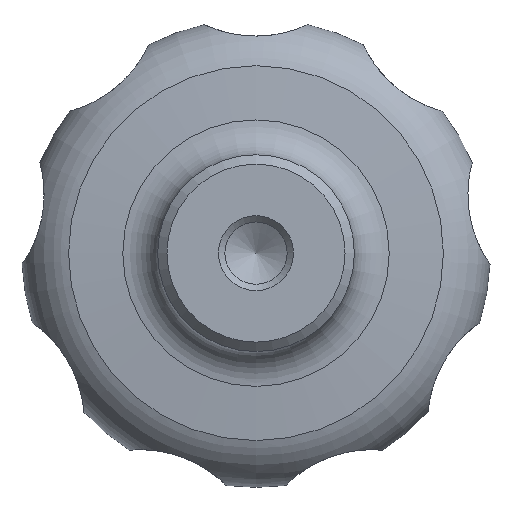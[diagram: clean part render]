
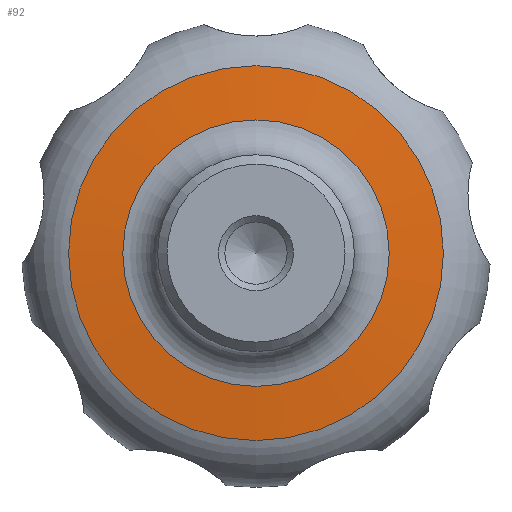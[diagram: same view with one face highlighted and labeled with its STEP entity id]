
A CAD part, front view. The second image highlights one B-rep face of the part: STEP entity #92.
In plain terms, the highlighted spherical face has radius 200.5 mm.
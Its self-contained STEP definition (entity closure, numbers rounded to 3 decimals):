
#92 = ADVANCED_FACE( '', ( #147, #148 ), #149, .T. );
#147 = FACE_OUTER_BOUND( '', #205, .T. );
#148 = FACE_OUTER_BOUND( '', #206, .T. );
#149 = SPHERICAL_SURFACE( '', #207, 200.5 );
#205 = EDGE_LOOP( '', ( #297 ) );
#206 = EDGE_LOOP( '', ( #298 ) );
#207 = AXIS2_PLACEMENT_3D( '', #299, #300, #301 );
#297 = ORIENTED_EDGE( '', *, *, #320, .T. );
#298 = ORIENTED_EDGE( '', *, *, #327, .F. );
#299 = CARTESIAN_POINT( '', ( 0., 217.5, 0. ) );
#300 = DIRECTION( '', ( 0., -1., 0. ) );
#301 = DIRECTION( '', ( 1., 0., 0. ) );
#320 = EDGE_CURVE( '', #350, #350, #351, .T. );
#327 = EDGE_CURVE( '', #362, #362, #363, .T. );
#350 = VERTEX_POINT( '', #1035 );
#351 = CIRCLE( '', #1036, 20. );
#362 = VERTEX_POINT( '', #1133 );
#363 = CIRCLE( '', #1134, 14.216 );
#1035 = CARTESIAN_POINT( '', ( 0., 18., -20. ) );
#1036 = AXIS2_PLACEMENT_3D( '', #1144, #1145, #1146 );
#1133 = CARTESIAN_POINT( '', ( 0., 17.505, -14.216 ) );
#1134 = AXIS2_PLACEMENT_3D( '', #1159, #1160, #1161 );
#1144 = CARTESIAN_POINT( '', ( 0., 18., 0. ) );
#1145 = DIRECTION( '', ( 0., -1., 0. ) );
#1146 = DIRECTION( '', ( 0., 0., -1. ) );
#1159 = CARTESIAN_POINT( '', ( 0., 17.505, 0. ) );
#1160 = DIRECTION( '', ( 0., -1., 0. ) );
#1161 = DIRECTION( '', ( 0., 0., -1. ) );
